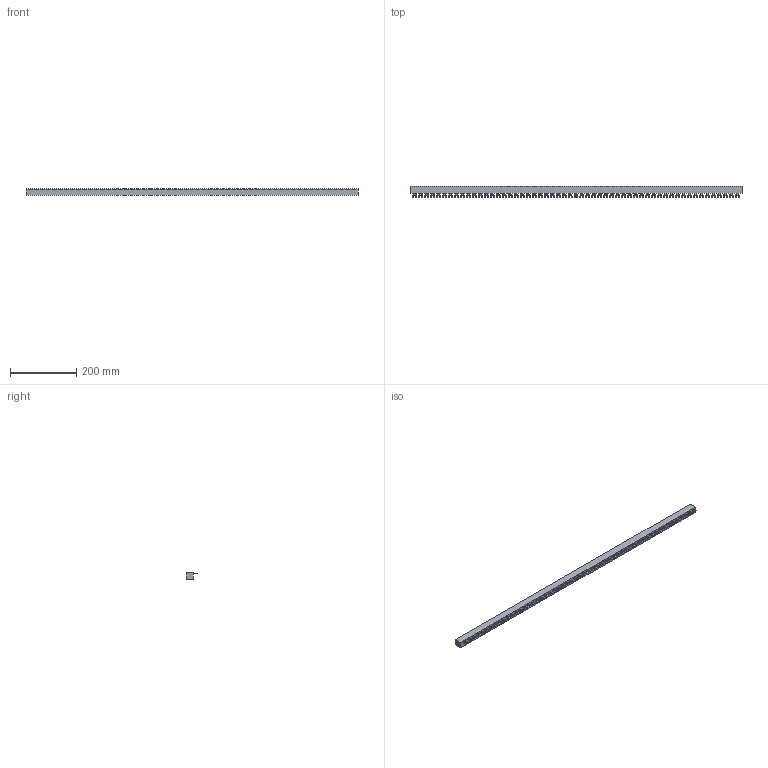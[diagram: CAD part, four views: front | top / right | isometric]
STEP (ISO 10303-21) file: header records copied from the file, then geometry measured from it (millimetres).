
FILE_DESCRIPTION (( 'STEP AP214' ), '1' );
FILE_NAME ('Øèíà 4P FORK 1000.STEP', '2024-03-07T06:41:08', ( '' ), ( '' ), 'SwSTEP 2.0', 'SolidWorks 2018', '' );
FILE_SCHEMA (( 'AUTOMOTIVE_DESIGN' ));
Length unit declared in the file: millimetre
Products named in the file (1): 嵙縺 4P FORK 1000
Bounding box: 1000 x 35.6 x 19.5 mm (x, y, z)
Volume: 439242 mm3; surface area: 97297.7 mm2
Topology: 1 solids, 1 shells, 721 faces, 1992 edges, 1328 vertices
Faces by surface type: plane 556, cylinder 165
Entity records: 22850 total; most frequent: CARTESIAN_POINT 4042, ORIENTED_EDGE 3984, DIRECTION 3766, EDGE_CURVE 1992, VECTOR 1662, LINE 1662, VERTEX_POINT 1328, AXIS2_PLACEMENT_3D 1052
